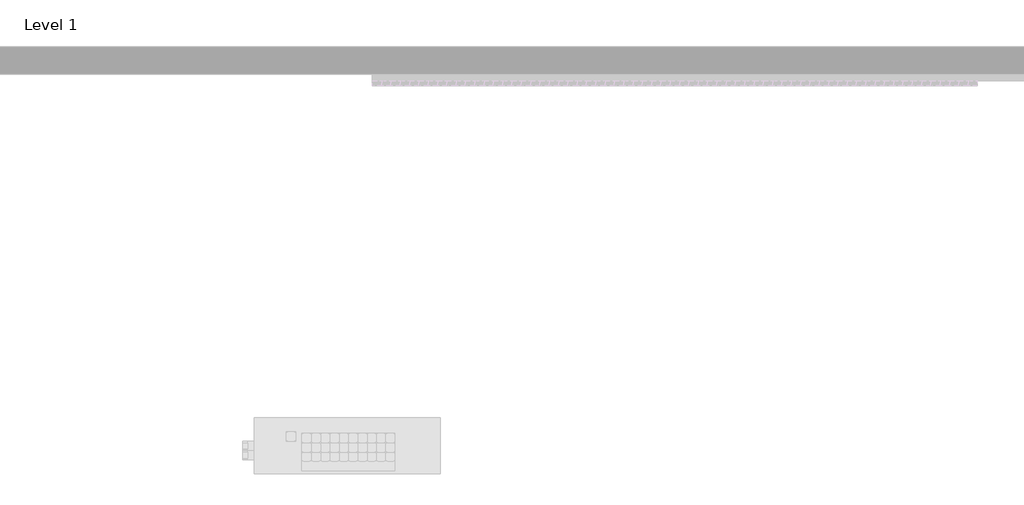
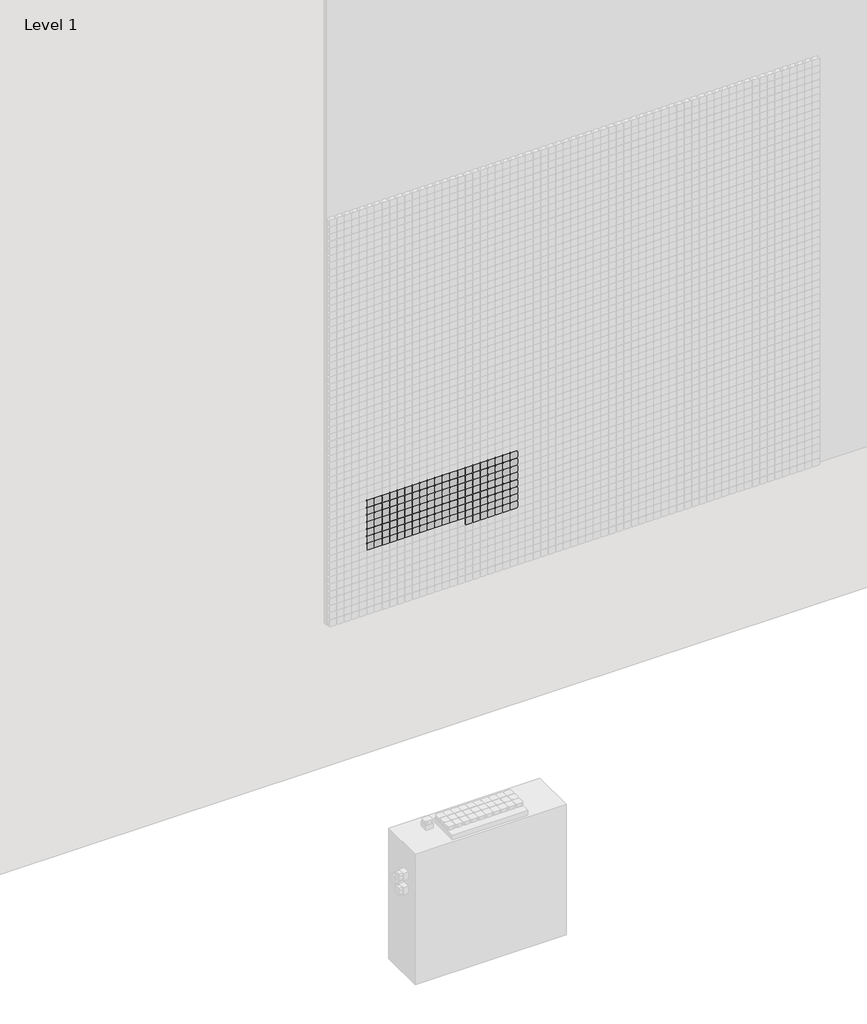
# One storey, part 19 of 71: 147 proxies.
"""IFC4 building model written with IfcOpenShell, lengths in millimetres."""

from ifc_helpers import new_model, si_unit, origin, place, context, project, spatial, transform, mapped, element, save
from components import generic_models_afde289c

model = new_model("IFC4")

# Units and contexts
model_context = context("Model", 3, world=origin())
ifc_project = project(units=[si_unit("LENGTHUNIT", "METRE", prefix="MILLI")], contexts=[model_context])

# Site, building, storey
site = spatial("IfcSite", under=ifc_project)
building = spatial("IfcBuilding", under=site)
storey = spatial("IfcBuildingStorey", under=building, Name="Level 1", Elevation=0.0)

# Proxies
placement = place(None, origin())
generic_models_shape = generic_models_afde289c(model_context)
element("IfcBuildingElementProxy", 1, Name="Pixel_M : Pixel_M", ObjectType="Pixel_M : Pixel_M", at=placement, inside=storey, context=model_context, shape_type="MappedRepresentation", body=[
    mapped(generic_models_shape, transform((5962.4280941, -75.0, 1766.3566215), x_axis=(1.0, 0.0, 0.0), y_axis=(0.0, 0.0, 1.0), z_axis=(0.0, -1.0, 0.0))),
])
element("IfcBuildingElementProxy", 2, Name="Pixel_M : Pixel_M", ObjectType="Pixel_M : Pixel_M", at=placement, inside=storey, context=model_context, shape_type="MappedRepresentation", body=[
    mapped(generic_models_shape, transform((5912.4280941, -75.0, 1766.3566215), x_axis=(1.0, 0.0, 0.0), y_axis=(0.0, 0.0, 1.0), z_axis=(0.0, -1.0, 0.0))),
])
element("IfcBuildingElementProxy", 3, Name="Pixel_M : Pixel_M", ObjectType="Pixel_M : Pixel_M", at=placement, inside=storey, context=model_context, shape_type="MappedRepresentation", body=[
    mapped(generic_models_shape, transform((5862.4280941, -75.0, 1766.3566215), x_axis=(1.0, 0.0, 0.0), y_axis=(0.0, 0.0, 1.0), z_axis=(0.0, -1.0, 0.0))),
])
element("IfcBuildingElementProxy", 4, Name="Pixel_M : Pixel_M", ObjectType="Pixel_M : Pixel_M", at=placement, inside=storey, context=model_context, shape_type="MappedRepresentation", body=[
    mapped(generic_models_shape, transform((5812.4280941, -75.0, 1766.3566215), x_axis=(1.0, 0.0, 0.0), y_axis=(0.0, 0.0, 1.0), z_axis=(0.0, -1.0, 0.0))),
])
element("IfcBuildingElementProxy", 5, Name="Pixel_M : Pixel_M", ObjectType="Pixel_M : Pixel_M", at=placement, inside=storey, context=model_context, shape_type="MappedRepresentation", body=[
    mapped(generic_models_shape, transform((5762.4280941, -75.0, 1766.3566215), x_axis=(1.0, 0.0, 0.0), y_axis=(0.0, 0.0, 1.0), z_axis=(0.0, -1.0, 0.0))),
])
element("IfcBuildingElementProxy", 6, Name="Pixel_M : Pixel_M", ObjectType="Pixel_M : Pixel_M", at=placement, inside=storey, context=model_context, shape_type="MappedRepresentation", body=[
    mapped(generic_models_shape, transform((5712.4280941, -75.0, 1766.3566215), x_axis=(1.0, 0.0, 0.0), y_axis=(0.0, 0.0, 1.0), z_axis=(0.0, -1.0, 0.0))),
])
element("IfcBuildingElementProxy", 7, Name="Pixel_M : Pixel_M", ObjectType="Pixel_M : Pixel_M", at=placement, inside=storey, context=model_context, shape_type="MappedRepresentation", body=[
    mapped(generic_models_shape, transform((5662.4280941, -75.0, 1766.3566215), x_axis=(1.0, 0.0, 0.0), y_axis=(0.0, 0.0, 1.0), z_axis=(0.0, -1.0, 0.0))),
])
element("IfcBuildingElementProxy", 8, Name="Pixel_M : Pixel_M", ObjectType="Pixel_M : Pixel_M", at=placement, inside=storey, context=model_context, shape_type="MappedRepresentation", body=[
    mapped(generic_models_shape, transform((5612.4280941, -75.0, 1766.3566215), x_axis=(1.0, 0.0, 0.0), y_axis=(0.0, 0.0, 1.0), z_axis=(0.0, -1.0, 0.0))),
])
element("IfcBuildingElementProxy", 9, Name="Pixel_M : Pixel_M", ObjectType="Pixel_M : Pixel_M", at=placement, inside=storey, context=model_context, shape_type="MappedRepresentation", body=[
    mapped(generic_models_shape, transform((5562.4280941, -75.0, 1766.3566215), x_axis=(1.0, 0.0, 0.0), y_axis=(0.0, 0.0, 1.0), z_axis=(0.0, -1.0, 0.0))),
])
element("IfcBuildingElementProxy", 10, Name="Pixel_M : Pixel_M", ObjectType="Pixel_M : Pixel_M", at=placement, inside=storey, context=model_context, shape_type="MappedRepresentation", body=[
    mapped(generic_models_shape, transform((5512.4280941, -75.0, 1766.3566215), x_axis=(1.0, 0.0, 0.0), y_axis=(0.0, 0.0, 1.0), z_axis=(0.0, -1.0, 0.0))),
])
element("IfcBuildingElementProxy", 11, Name="Pixel_M : Pixel_M", ObjectType="Pixel_M : Pixel_M", at=placement, inside=storey, context=model_context, shape_type="MappedRepresentation", body=[
    mapped(generic_models_shape, transform((5462.4280941, -75.0, 1766.3566215), x_axis=(1.0, 0.0, 0.0), y_axis=(0.0, 0.0, 1.0), z_axis=(0.0, -1.0, 0.0))),
])
element("IfcBuildingElementProxy", 12, Name="Pixel_M : Pixel_M", ObjectType="Pixel_M : Pixel_M", at=placement, inside=storey, context=model_context, shape_type="MappedRepresentation", body=[
    mapped(generic_models_shape, transform((5412.4280941, -75.0, 1766.3566215), x_axis=(1.0, 0.0, 0.0), y_axis=(0.0, 0.0, 1.0), z_axis=(0.0, -1.0, 0.0))),
])
element("IfcBuildingElementProxy", 13, Name="Pixel_M : Pixel_M", ObjectType="Pixel_M : Pixel_M", at=placement, inside=storey, context=model_context, shape_type="MappedRepresentation", body=[
    mapped(generic_models_shape, transform((5362.4280941, -75.0, 1766.3566215), x_axis=(1.0, 0.0, 0.0), y_axis=(0.0, 0.0, 1.0), z_axis=(0.0, -1.0, 0.0))),
])
element("IfcBuildingElementProxy", 14, Name="Pixel_M : Pixel_M", ObjectType="Pixel_M : Pixel_M", at=placement, inside=storey, context=model_context, shape_type="MappedRepresentation", body=[
    mapped(generic_models_shape, transform((5312.4280941, -75.0, 1766.3566215), x_axis=(1.0, 0.0, 0.0), y_axis=(0.0, 0.0, 1.0), z_axis=(0.0, -1.0, 0.0))),
])
element("IfcBuildingElementProxy", 15, Name="Pixel_M : Pixel_M", ObjectType="Pixel_M : Pixel_M", at=placement, inside=storey, context=model_context, shape_type="MappedRepresentation", body=[
    mapped(generic_models_shape, transform((5262.4280941, -75.0, 1766.3566215), x_axis=(1.0, 0.0, 0.0), y_axis=(0.0, 0.0, 1.0), z_axis=(0.0, -1.0, 0.0))),
])
element("IfcBuildingElementProxy", 16, Name="Pixel_M : Pixel_M", ObjectType="Pixel_M : Pixel_M", at=placement, inside=storey, context=model_context, shape_type="MappedRepresentation", body=[
    mapped(generic_models_shape, transform((5212.4280941, -75.0, 1766.3566215), x_axis=(1.0, 0.0, 0.0), y_axis=(0.0, 0.0, 1.0), z_axis=(0.0, -1.0, 0.0))),
])
element("IfcBuildingElementProxy", 17, Name="Pixel_M : Pixel_M", ObjectType="Pixel_M : Pixel_M", at=placement, inside=storey, context=model_context, shape_type="MappedRepresentation", body=[
    mapped(generic_models_shape, transform((5162.4280941, -75.0, 1766.3566215), x_axis=(1.0, 0.0, 0.0), y_axis=(0.0, 0.0, 1.0), z_axis=(0.0, -1.0, 0.0))),
])
element("IfcBuildingElementProxy", 18, Name="Pixel_M : Pixel_M", ObjectType="Pixel_M : Pixel_M", at=placement, inside=storey, context=model_context, shape_type="MappedRepresentation", body=[
    mapped(generic_models_shape, transform((5112.4280941, -75.0, 1766.3566215), x_axis=(1.0, 0.0, 0.0), y_axis=(0.0, 0.0, 1.0), z_axis=(0.0, -1.0, 0.0))),
])
element("IfcBuildingElementProxy", 19, Name="Pixel_M : Pixel_M", ObjectType="Pixel_M : Pixel_M", at=placement, inside=storey, context=model_context, shape_type="MappedRepresentation", body=[
    mapped(generic_models_shape, transform((5062.4280941, -75.0, 1766.3566215), x_axis=(1.0, 0.0, 0.0), y_axis=(0.0, 0.0, 1.0), z_axis=(0.0, -1.0, 0.0))),
])
element("IfcBuildingElementProxy", 20, Name="Pixel_M : Pixel_M", ObjectType="Pixel_M : Pixel_M", at=placement, inside=storey, context=model_context, shape_type="MappedRepresentation", body=[
    mapped(generic_models_shape, transform((5012.4280941, -75.0, 1766.3566215), x_axis=(1.0, 0.0, 0.0), y_axis=(0.0, 0.0, 1.0), z_axis=(0.0, -1.0, 0.0))),
])
element("IfcBuildingElementProxy", 21, Name="Pixel_M : Pixel_M", ObjectType="Pixel_M : Pixel_M", at=placement, inside=storey, context=model_context, shape_type="MappedRepresentation", body=[
    mapped(generic_models_shape, transform((5962.4280941, -75.0, 1716.3566215), x_axis=(1.0, 0.0, 0.0), y_axis=(0.0, 0.0, 1.0), z_axis=(0.0, -1.0, 0.0))),
])
element("IfcBuildingElementProxy", 22, Name="Pixel_M : Pixel_M", ObjectType="Pixel_M : Pixel_M", at=placement, inside=storey, context=model_context, shape_type="MappedRepresentation", body=[
    mapped(generic_models_shape, transform((5912.4280941, -75.0, 1716.3566215), x_axis=(1.0, 0.0, 0.0), y_axis=(0.0, 0.0, 1.0), z_axis=(0.0, -1.0, 0.0))),
])
element("IfcBuildingElementProxy", 23, Name="Pixel_M : Pixel_M", ObjectType="Pixel_M : Pixel_M", at=placement, inside=storey, context=model_context, shape_type="MappedRepresentation", body=[
    mapped(generic_models_shape, transform((5862.4280941, -75.0, 1716.3566215), x_axis=(1.0, 0.0, 0.0), y_axis=(0.0, 0.0, 1.0), z_axis=(0.0, -1.0, 0.0))),
])
element("IfcBuildingElementProxy", 24, Name="Pixel_M : Pixel_M", ObjectType="Pixel_M : Pixel_M", at=placement, inside=storey, context=model_context, shape_type="MappedRepresentation", body=[
    mapped(generic_models_shape, transform((5812.4280941, -75.0, 1716.3566215), x_axis=(1.0, 0.0, 0.0), y_axis=(0.0, 0.0, 1.0), z_axis=(0.0, -1.0, 0.0))),
])
element("IfcBuildingElementProxy", 25, Name="Pixel_M : Pixel_M", ObjectType="Pixel_M : Pixel_M", at=placement, inside=storey, context=model_context, shape_type="MappedRepresentation", body=[
    mapped(generic_models_shape, transform((5762.4280941, -75.0, 1716.3566215), x_axis=(1.0, 0.0, 0.0), y_axis=(0.0, 0.0, 1.0), z_axis=(0.0, -1.0, 0.0))),
])
element("IfcBuildingElementProxy", 26, Name="Pixel_M : Pixel_M", ObjectType="Pixel_M : Pixel_M", at=placement, inside=storey, context=model_context, shape_type="MappedRepresentation", body=[
    mapped(generic_models_shape, transform((5712.4280941, -75.0, 1716.3566215), x_axis=(1.0, 0.0, 0.0), y_axis=(0.0, 0.0, 1.0), z_axis=(0.0, -1.0, 0.0))),
])
element("IfcBuildingElementProxy", 27, Name="Pixel_M : Pixel_M", ObjectType="Pixel_M : Pixel_M", at=placement, inside=storey, context=model_context, shape_type="MappedRepresentation", body=[
    mapped(generic_models_shape, transform((5662.4280941, -75.0, 1716.3566215), x_axis=(1.0, 0.0, 0.0), y_axis=(0.0, 0.0, 1.0), z_axis=(0.0, -1.0, 0.0))),
])
element("IfcBuildingElementProxy", 28, Name="Pixel_M : Pixel_M", ObjectType="Pixel_M : Pixel_M", at=placement, inside=storey, context=model_context, shape_type="MappedRepresentation", body=[
    mapped(generic_models_shape, transform((5612.4280941, -75.0, 1716.3566215), x_axis=(1.0, 0.0, 0.0), y_axis=(0.0, 0.0, 1.0), z_axis=(0.0, -1.0, 0.0))),
])
element("IfcBuildingElementProxy", 29, Name="Pixel_M : Pixel_M", ObjectType="Pixel_M : Pixel_M", at=placement, inside=storey, context=model_context, shape_type="MappedRepresentation", body=[
    mapped(generic_models_shape, transform((5562.4280941, -75.0, 1716.3566215), x_axis=(1.0, 0.0, 0.0), y_axis=(0.0, 0.0, 1.0), z_axis=(0.0, -1.0, 0.0))),
])
element("IfcBuildingElementProxy", 30, Name="Pixel_M : Pixel_M", ObjectType="Pixel_M : Pixel_M", at=placement, inside=storey, context=model_context, shape_type="MappedRepresentation", body=[
    mapped(generic_models_shape, transform((5512.4280941, -75.0, 1716.3566215), x_axis=(1.0, 0.0, 0.0), y_axis=(0.0, 0.0, 1.0), z_axis=(0.0, -1.0, 0.0))),
])
element("IfcBuildingElementProxy", 31, Name="Pixel_M : Pixel_M", ObjectType="Pixel_M : Pixel_M", at=placement, inside=storey, context=model_context, shape_type="MappedRepresentation", body=[
    mapped(generic_models_shape, transform((5462.4280941, -75.0, 1716.3566215), x_axis=(1.0, 0.0, 0.0), y_axis=(0.0, 0.0, 1.0), z_axis=(0.0, -1.0, 0.0))),
])
element("IfcBuildingElementProxy", 32, Name="Pixel_M : Pixel_M", ObjectType="Pixel_M : Pixel_M", at=placement, inside=storey, context=model_context, shape_type="MappedRepresentation", body=[
    mapped(generic_models_shape, transform((5412.4280941, -75.0, 1716.3566215), x_axis=(1.0, 0.0, 0.0), y_axis=(0.0, 0.0, 1.0), z_axis=(0.0, -1.0, 0.0))),
])
element("IfcBuildingElementProxy", 33, Name="Pixel_M : Pixel_M", ObjectType="Pixel_M : Pixel_M", at=placement, inside=storey, context=model_context, shape_type="MappedRepresentation", body=[
    mapped(generic_models_shape, transform((5362.4280941, -75.0, 1716.3566215), x_axis=(1.0, 0.0, 0.0), y_axis=(0.0, 0.0, 1.0), z_axis=(0.0, -1.0, 0.0))),
])
element("IfcBuildingElementProxy", 34, Name="Pixel_M : Pixel_M", ObjectType="Pixel_M : Pixel_M", at=placement, inside=storey, context=model_context, shape_type="MappedRepresentation", body=[
    mapped(generic_models_shape, transform((5312.4280941, -75.0, 1716.3566215), x_axis=(1.0, 0.0, 0.0), y_axis=(0.0, 0.0, 1.0), z_axis=(0.0, -1.0, 0.0))),
])
element("IfcBuildingElementProxy", 35, Name="Pixel_M : Pixel_M", ObjectType="Pixel_M : Pixel_M", at=placement, inside=storey, context=model_context, shape_type="MappedRepresentation", body=[
    mapped(generic_models_shape, transform((5262.4280941, -75.0, 1716.3566215), x_axis=(1.0, 0.0, 0.0), y_axis=(0.0, 0.0, 1.0), z_axis=(0.0, -1.0, 0.0))),
])
element("IfcBuildingElementProxy", 36, Name="Pixel_M : Pixel_M", ObjectType="Pixel_M : Pixel_M", at=placement, inside=storey, context=model_context, shape_type="MappedRepresentation", body=[
    mapped(generic_models_shape, transform((5212.4280941, -75.0, 1716.3566215), x_axis=(1.0, 0.0, 0.0), y_axis=(0.0, 0.0, 1.0), z_axis=(0.0, -1.0, 0.0))),
])
element("IfcBuildingElementProxy", 37, Name="Pixel_M : Pixel_M", ObjectType="Pixel_M : Pixel_M", at=placement, inside=storey, context=model_context, shape_type="MappedRepresentation", body=[
    mapped(generic_models_shape, transform((5162.4280941, -75.0, 1716.3566215), x_axis=(1.0, 0.0, 0.0), y_axis=(0.0, 0.0, 1.0), z_axis=(0.0, -1.0, 0.0))),
])
element("IfcBuildingElementProxy", 38, Name="Pixel_M : Pixel_M", ObjectType="Pixel_M : Pixel_M", at=placement, inside=storey, context=model_context, shape_type="MappedRepresentation", body=[
    mapped(generic_models_shape, transform((5112.4280941, -75.0, 1716.3566215), x_axis=(1.0, 0.0, 0.0), y_axis=(0.0, 0.0, 1.0), z_axis=(0.0, -1.0, 0.0))),
])
element("IfcBuildingElementProxy", 39, Name="Pixel_M : Pixel_M", ObjectType="Pixel_M : Pixel_M", at=placement, inside=storey, context=model_context, shape_type="MappedRepresentation", body=[
    mapped(generic_models_shape, transform((5062.4280941, -75.0, 1716.3566215), x_axis=(1.0, 0.0, 0.0), y_axis=(0.0, 0.0, 1.0), z_axis=(0.0, -1.0, 0.0))),
])
element("IfcBuildingElementProxy", 40, Name="Pixel_M : Pixel_M", ObjectType="Pixel_M : Pixel_M", at=placement, inside=storey, context=model_context, shape_type="MappedRepresentation", body=[
    mapped(generic_models_shape, transform((5012.4280941, -75.0, 1716.3566215), x_axis=(1.0, 0.0, 0.0), y_axis=(0.0, 0.0, 1.0), z_axis=(0.0, -1.0, 0.0))),
])
element("IfcBuildingElementProxy", 41, Name="Pixel_M : Pixel_M", ObjectType="Pixel_M : Pixel_M", at=placement, inside=storey, context=model_context, shape_type="MappedRepresentation", body=[
    mapped(generic_models_shape, transform((5962.4280941, -75.0, 1666.3566215), x_axis=(1.0, 0.0, 0.0), y_axis=(0.0, 0.0, 1.0), z_axis=(0.0, -1.0, 0.0))),
])
element("IfcBuildingElementProxy", 42, Name="Pixel_M : Pixel_M", ObjectType="Pixel_M : Pixel_M", at=placement, inside=storey, context=model_context, shape_type="MappedRepresentation", body=[
    mapped(generic_models_shape, transform((5912.4280941, -75.0, 1666.3566215), x_axis=(1.0, 0.0, 0.0), y_axis=(0.0, 0.0, 1.0), z_axis=(0.0, -1.0, 0.0))),
])
element("IfcBuildingElementProxy", 43, Name="Pixel_M : Pixel_M", ObjectType="Pixel_M : Pixel_M", at=placement, inside=storey, context=model_context, shape_type="MappedRepresentation", body=[
    mapped(generic_models_shape, transform((5862.4280941, -75.0, 1666.3566215), x_axis=(1.0, 0.0, 0.0), y_axis=(0.0, 0.0, 1.0), z_axis=(0.0, -1.0, 0.0))),
])
element("IfcBuildingElementProxy", 44, Name="Pixel_M : Pixel_M", ObjectType="Pixel_M : Pixel_M", at=placement, inside=storey, context=model_context, shape_type="MappedRepresentation", body=[
    mapped(generic_models_shape, transform((5812.4280941, -75.0, 1666.3566215), x_axis=(1.0, 0.0, 0.0), y_axis=(0.0, 0.0, 1.0), z_axis=(0.0, -1.0, 0.0))),
])
element("IfcBuildingElementProxy", 45, Name="Pixel_M : Pixel_M", ObjectType="Pixel_M : Pixel_M", at=placement, inside=storey, context=model_context, shape_type="MappedRepresentation", body=[
    mapped(generic_models_shape, transform((5762.4280941, -75.0, 1666.3566215), x_axis=(1.0, 0.0, 0.0), y_axis=(0.0, 0.0, 1.0), z_axis=(0.0, -1.0, 0.0))),
])
element("IfcBuildingElementProxy", 46, Name="Pixel_M : Pixel_M", ObjectType="Pixel_M : Pixel_M", at=placement, inside=storey, context=model_context, shape_type="MappedRepresentation", body=[
    mapped(generic_models_shape, transform((5712.4280941, -75.0, 1666.3566215), x_axis=(1.0, 0.0, 0.0), y_axis=(0.0, 0.0, 1.0), z_axis=(0.0, -1.0, 0.0))),
])
element("IfcBuildingElementProxy", 47, Name="Pixel_M : Pixel_M", ObjectType="Pixel_M : Pixel_M", at=placement, inside=storey, context=model_context, shape_type="MappedRepresentation", body=[
    mapped(generic_models_shape, transform((5662.4280941, -75.0, 1666.3566215), x_axis=(1.0, 0.0, 0.0), y_axis=(0.0, 0.0, 1.0), z_axis=(0.0, -1.0, 0.0))),
])
element("IfcBuildingElementProxy", 48, Name="Pixel_M : Pixel_M", ObjectType="Pixel_M : Pixel_M", at=placement, inside=storey, context=model_context, shape_type="MappedRepresentation", body=[
    mapped(generic_models_shape, transform((5612.4280941, -75.0, 1666.3566215), x_axis=(1.0, 0.0, 0.0), y_axis=(0.0, 0.0, 1.0), z_axis=(0.0, -1.0, 0.0))),
])
element("IfcBuildingElementProxy", 49, Name="Pixel_M : Pixel_M", ObjectType="Pixel_M : Pixel_M", at=placement, inside=storey, context=model_context, shape_type="MappedRepresentation", body=[
    mapped(generic_models_shape, transform((5562.4280941, -75.0, 1666.3566215), x_axis=(1.0, 0.0, 0.0), y_axis=(0.0, 0.0, 1.0), z_axis=(0.0, -1.0, 0.0))),
])
element("IfcBuildingElementProxy", 50, Name="Pixel_M : Pixel_M", ObjectType="Pixel_M : Pixel_M", at=placement, inside=storey, context=model_context, shape_type="MappedRepresentation", body=[
    mapped(generic_models_shape, transform((5512.4280941, -75.0, 1666.3566215), x_axis=(1.0, 0.0, 0.0), y_axis=(0.0, 0.0, 1.0), z_axis=(0.0, -1.0, 0.0))),
])
element("IfcBuildingElementProxy", 51, Name="Pixel_M : Pixel_M", ObjectType="Pixel_M : Pixel_M", at=placement, inside=storey, context=model_context, shape_type="MappedRepresentation", body=[
    mapped(generic_models_shape, transform((5462.4280941, -75.0, 1666.3566215), x_axis=(1.0, 0.0, 0.0), y_axis=(0.0, 0.0, 1.0), z_axis=(0.0, -1.0, 0.0))),
])
element("IfcBuildingElementProxy", 52, Name="Pixel_M : Pixel_M", ObjectType="Pixel_M : Pixel_M", at=placement, inside=storey, context=model_context, shape_type="MappedRepresentation", body=[
    mapped(generic_models_shape, transform((5412.4280941, -75.0, 1666.3566215), x_axis=(1.0, 0.0, 0.0), y_axis=(0.0, 0.0, 1.0), z_axis=(0.0, -1.0, 0.0))),
])
element("IfcBuildingElementProxy", 53, Name="Pixel_M : Pixel_M", ObjectType="Pixel_M : Pixel_M", at=placement, inside=storey, context=model_context, shape_type="MappedRepresentation", body=[
    mapped(generic_models_shape, transform((5362.4280941, -75.0, 1666.3566215), x_axis=(1.0, 0.0, 0.0), y_axis=(0.0, 0.0, 1.0), z_axis=(0.0, -1.0, 0.0))),
])
element("IfcBuildingElementProxy", 54, Name="Pixel_M : Pixel_M", ObjectType="Pixel_M : Pixel_M", at=placement, inside=storey, context=model_context, shape_type="MappedRepresentation", body=[
    mapped(generic_models_shape, transform((5312.4280941, -75.0, 1666.3566215), x_axis=(1.0, 0.0, 0.0), y_axis=(0.0, 0.0, 1.0), z_axis=(0.0, -1.0, 0.0))),
])
element("IfcBuildingElementProxy", 55, Name="Pixel_M : Pixel_M", ObjectType="Pixel_M : Pixel_M", at=placement, inside=storey, context=model_context, shape_type="MappedRepresentation", body=[
    mapped(generic_models_shape, transform((5262.4280941, -75.0, 1666.3566215), x_axis=(1.0, 0.0, 0.0), y_axis=(0.0, 0.0, 1.0), z_axis=(0.0, -1.0, 0.0))),
])
element("IfcBuildingElementProxy", 56, Name="Pixel_M : Pixel_M", ObjectType="Pixel_M : Pixel_M", at=placement, inside=storey, context=model_context, shape_type="MappedRepresentation", body=[
    mapped(generic_models_shape, transform((5212.4280941, -75.0, 1666.3566215), x_axis=(1.0, 0.0, 0.0), y_axis=(0.0, 0.0, 1.0), z_axis=(0.0, -1.0, 0.0))),
])
element("IfcBuildingElementProxy", 57, Name="Pixel_M : Pixel_M", ObjectType="Pixel_M : Pixel_M", at=placement, inside=storey, context=model_context, shape_type="MappedRepresentation", body=[
    mapped(generic_models_shape, transform((5162.4280941, -75.0, 1666.3566215), x_axis=(1.0, 0.0, 0.0), y_axis=(0.0, 0.0, 1.0), z_axis=(0.0, -1.0, 0.0))),
])
element("IfcBuildingElementProxy", 58, Name="Pixel_M : Pixel_M", ObjectType="Pixel_M : Pixel_M", at=placement, inside=storey, context=model_context, shape_type="MappedRepresentation", body=[
    mapped(generic_models_shape, transform((5112.4280941, -75.0, 1666.3566215), x_axis=(1.0, 0.0, 0.0), y_axis=(0.0, 0.0, 1.0), z_axis=(0.0, -1.0, 0.0))),
])
element("IfcBuildingElementProxy", 59, Name="Pixel_M : Pixel_M", ObjectType="Pixel_M : Pixel_M", at=placement, inside=storey, context=model_context, shape_type="MappedRepresentation", body=[
    mapped(generic_models_shape, transform((5062.4280941, -75.0, 1666.3566215), x_axis=(1.0, 0.0, 0.0), y_axis=(0.0, 0.0, 1.0), z_axis=(0.0, -1.0, 0.0))),
])
element("IfcBuildingElementProxy", 60, Name="Pixel_M : Pixel_M", ObjectType="Pixel_M : Pixel_M", at=placement, inside=storey, context=model_context, shape_type="MappedRepresentation", body=[
    mapped(generic_models_shape, transform((5012.4280941, -75.0, 1666.3566215), x_axis=(1.0, 0.0, 0.0), y_axis=(0.0, 0.0, 1.0), z_axis=(0.0, -1.0, 0.0))),
])
element("IfcBuildingElementProxy", 61, Name="Pixel_M : Pixel_M", ObjectType="Pixel_M : Pixel_M", at=placement, inside=storey, context=model_context, shape_type="MappedRepresentation", body=[
    mapped(generic_models_shape, transform((5962.4280941, -75.0, 1616.3566215), x_axis=(1.0, 0.0, 0.0), y_axis=(0.0, 0.0, 1.0), z_axis=(0.0, -1.0, 0.0))),
])
element("IfcBuildingElementProxy", 62, Name="Pixel_M : Pixel_M", ObjectType="Pixel_M : Pixel_M", at=placement, inside=storey, context=model_context, shape_type="MappedRepresentation", body=[
    mapped(generic_models_shape, transform((5912.4280941, -75.0, 1616.3566215), x_axis=(1.0, 0.0, 0.0), y_axis=(0.0, 0.0, 1.0), z_axis=(0.0, -1.0, 0.0))),
])
element("IfcBuildingElementProxy", 63, Name="Pixel_M : Pixel_M", ObjectType="Pixel_M : Pixel_M", at=placement, inside=storey, context=model_context, shape_type="MappedRepresentation", body=[
    mapped(generic_models_shape, transform((5862.4280941, -75.0, 1616.3566215), x_axis=(1.0, 0.0, 0.0), y_axis=(0.0, 0.0, 1.0), z_axis=(0.0, -1.0, 0.0))),
])
element("IfcBuildingElementProxy", 64, Name="Pixel_M : Pixel_M", ObjectType="Pixel_M : Pixel_M", at=placement, inside=storey, context=model_context, shape_type="MappedRepresentation", body=[
    mapped(generic_models_shape, transform((5812.4280941, -75.0, 1616.3566215), x_axis=(1.0, 0.0, 0.0), y_axis=(0.0, 0.0, 1.0), z_axis=(0.0, -1.0, 0.0))),
])
element("IfcBuildingElementProxy", 65, Name="Pixel_M : Pixel_M", ObjectType="Pixel_M : Pixel_M", at=placement, inside=storey, context=model_context, shape_type="MappedRepresentation", body=[
    mapped(generic_models_shape, transform((5762.4280941, -75.0, 1616.3566215), x_axis=(1.0, 0.0, 0.0), y_axis=(0.0, 0.0, 1.0), z_axis=(0.0, -1.0, 0.0))),
])
element("IfcBuildingElementProxy", 66, Name="Pixel_M : Pixel_M", ObjectType="Pixel_M : Pixel_M", at=placement, inside=storey, context=model_context, shape_type="MappedRepresentation", body=[
    mapped(generic_models_shape, transform((5712.4280941, -75.0, 1616.3566215), x_axis=(1.0, 0.0, 0.0), y_axis=(0.0, 0.0, 1.0), z_axis=(0.0, -1.0, 0.0))),
])
element("IfcBuildingElementProxy", 67, Name="Pixel_M : Pixel_M", ObjectType="Pixel_M : Pixel_M", at=placement, inside=storey, context=model_context, shape_type="MappedRepresentation", body=[
    mapped(generic_models_shape, transform((5662.4280941, -75.0, 1616.3566215), x_axis=(1.0, 0.0, 0.0), y_axis=(0.0, 0.0, 1.0), z_axis=(0.0, -1.0, 0.0))),
])
element("IfcBuildingElementProxy", 68, Name="Pixel_M : Pixel_M", ObjectType="Pixel_M : Pixel_M", at=placement, inside=storey, context=model_context, shape_type="MappedRepresentation", body=[
    mapped(generic_models_shape, transform((5612.4280941, -75.0, 1616.3566215), x_axis=(1.0, 0.0, 0.0), y_axis=(0.0, 0.0, 1.0), z_axis=(0.0, -1.0, 0.0))),
])
element("IfcBuildingElementProxy", 69, Name="Pixel_M : Pixel_M", ObjectType="Pixel_M : Pixel_M", at=placement, inside=storey, context=model_context, shape_type="MappedRepresentation", body=[
    mapped(generic_models_shape, transform((5562.4280941, -75.0, 1616.3566215), x_axis=(1.0, 0.0, 0.0), y_axis=(0.0, 0.0, 1.0), z_axis=(0.0, -1.0, 0.0))),
])
element("IfcBuildingElementProxy", 70, Name="Pixel_M : Pixel_M", ObjectType="Pixel_M : Pixel_M", at=placement, inside=storey, context=model_context, shape_type="MappedRepresentation", body=[
    mapped(generic_models_shape, transform((5512.4280941, -75.0, 1616.3566215), x_axis=(1.0, 0.0, 0.0), y_axis=(0.0, 0.0, 1.0), z_axis=(0.0, -1.0, 0.0))),
])
element("IfcBuildingElementProxy", 71, Name="Pixel_M : Pixel_M", ObjectType="Pixel_M : Pixel_M", at=placement, inside=storey, context=model_context, shape_type="MappedRepresentation", body=[
    mapped(generic_models_shape, transform((5462.4280941, -75.0, 1616.3566215), x_axis=(1.0, 0.0, 0.0), y_axis=(0.0, 0.0, 1.0), z_axis=(0.0, -1.0, 0.0))),
])
element("IfcBuildingElementProxy", 72, Name="Pixel_M : Pixel_M", ObjectType="Pixel_M : Pixel_M", at=placement, inside=storey, context=model_context, shape_type="MappedRepresentation", body=[
    mapped(generic_models_shape, transform((5412.4280941, -75.0, 1616.3566215), x_axis=(1.0, 0.0, 0.0), y_axis=(0.0, 0.0, 1.0), z_axis=(0.0, -1.0, 0.0))),
])
element("IfcBuildingElementProxy", 73, Name="Pixel_M : Pixel_M", ObjectType="Pixel_M : Pixel_M", at=placement, inside=storey, context=model_context, shape_type="MappedRepresentation", body=[
    mapped(generic_models_shape, transform((5362.4280941, -75.0, 1616.3566215), x_axis=(1.0, 0.0, 0.0), y_axis=(0.0, 0.0, 1.0), z_axis=(0.0, -1.0, 0.0))),
])
element("IfcBuildingElementProxy", 74, Name="Pixel_M : Pixel_M", ObjectType="Pixel_M : Pixel_M", at=placement, inside=storey, context=model_context, shape_type="MappedRepresentation", body=[
    mapped(generic_models_shape, transform((5312.4280941, -75.0, 1616.3566215), x_axis=(1.0, 0.0, 0.0), y_axis=(0.0, 0.0, 1.0), z_axis=(0.0, -1.0, 0.0))),
])
element("IfcBuildingElementProxy", 75, Name="Pixel_M : Pixel_M", ObjectType="Pixel_M : Pixel_M", at=placement, inside=storey, context=model_context, shape_type="MappedRepresentation", body=[
    mapped(generic_models_shape, transform((5262.4280941, -75.0, 1616.3566215), x_axis=(1.0, 0.0, 0.0), y_axis=(0.0, 0.0, 1.0), z_axis=(0.0, -1.0, 0.0))),
])
element("IfcBuildingElementProxy", 76, Name="Pixel_M : Pixel_M", ObjectType="Pixel_M : Pixel_M", at=placement, inside=storey, context=model_context, shape_type="MappedRepresentation", body=[
    mapped(generic_models_shape, transform((5212.4280941, -75.0, 1616.3566215), x_axis=(1.0, 0.0, 0.0), y_axis=(0.0, 0.0, 1.0), z_axis=(0.0, -1.0, 0.0))),
])
element("IfcBuildingElementProxy", 77, Name="Pixel_M : Pixel_M", ObjectType="Pixel_M : Pixel_M", at=placement, inside=storey, context=model_context, shape_type="MappedRepresentation", body=[
    mapped(generic_models_shape, transform((5162.4280941, -75.0, 1616.3566215), x_axis=(1.0, 0.0, 0.0), y_axis=(0.0, 0.0, 1.0), z_axis=(0.0, -1.0, 0.0))),
])
element("IfcBuildingElementProxy", 78, Name="Pixel_M : Pixel_M", ObjectType="Pixel_M : Pixel_M", at=placement, inside=storey, context=model_context, shape_type="MappedRepresentation", body=[
    mapped(generic_models_shape, transform((5112.4280941, -75.0, 1616.3566215), x_axis=(1.0, 0.0, 0.0), y_axis=(0.0, 0.0, 1.0), z_axis=(0.0, -1.0, 0.0))),
])
element("IfcBuildingElementProxy", 79, Name="Pixel_M : Pixel_M", ObjectType="Pixel_M : Pixel_M", at=placement, inside=storey, context=model_context, shape_type="MappedRepresentation", body=[
    mapped(generic_models_shape, transform((5062.4280941, -75.0, 1616.3566215), x_axis=(1.0, 0.0, 0.0), y_axis=(0.0, 0.0, 1.0), z_axis=(0.0, -1.0, 0.0))),
])
element("IfcBuildingElementProxy", 80, Name="Pixel_M : Pixel_M", ObjectType="Pixel_M : Pixel_M", at=placement, inside=storey, context=model_context, shape_type="MappedRepresentation", body=[
    mapped(generic_models_shape, transform((5012.4280941, -75.0, 1616.3566215), x_axis=(1.0, 0.0, 0.0), y_axis=(0.0, 0.0, 1.0), z_axis=(0.0, -1.0, 0.0))),
])
element("IfcBuildingElementProxy", 81, Name="Pixel_M : Pixel_M", ObjectType="Pixel_M : Pixel_M", at=placement, inside=storey, context=model_context, shape_type="MappedRepresentation", body=[
    mapped(generic_models_shape, transform((5962.4280941, -75.0, 1566.3566215), x_axis=(1.0, 0.0, 0.0), y_axis=(0.0, 0.0, 1.0), z_axis=(0.0, -1.0, 0.0))),
])
element("IfcBuildingElementProxy", 82, Name="Pixel_M : Pixel_M", ObjectType="Pixel_M : Pixel_M", at=placement, inside=storey, context=model_context, shape_type="MappedRepresentation", body=[
    mapped(generic_models_shape, transform((5912.4280941, -75.0, 1566.3566215), x_axis=(1.0, 0.0, 0.0), y_axis=(0.0, 0.0, 1.0), z_axis=(0.0, -1.0, 0.0))),
])
element("IfcBuildingElementProxy", 83, Name="Pixel_M : Pixel_M", ObjectType="Pixel_M : Pixel_M", at=placement, inside=storey, context=model_context, shape_type="MappedRepresentation", body=[
    mapped(generic_models_shape, transform((5862.4280941, -75.0, 1566.3566215), x_axis=(1.0, 0.0, 0.0), y_axis=(0.0, 0.0, 1.0), z_axis=(0.0, -1.0, 0.0))),
])
element("IfcBuildingElementProxy", 84, Name="Pixel_M : Pixel_M", ObjectType="Pixel_M : Pixel_M", at=placement, inside=storey, context=model_context, shape_type="MappedRepresentation", body=[
    mapped(generic_models_shape, transform((5812.4280941, -75.0, 1566.3566215), x_axis=(1.0, 0.0, 0.0), y_axis=(0.0, 0.0, 1.0), z_axis=(0.0, -1.0, 0.0))),
])
element("IfcBuildingElementProxy", 85, Name="Pixel_M : Pixel_M", ObjectType="Pixel_M : Pixel_M", at=placement, inside=storey, context=model_context, shape_type="MappedRepresentation", body=[
    mapped(generic_models_shape, transform((5762.4280941, -75.0, 1566.3566215), x_axis=(1.0, 0.0, 0.0), y_axis=(0.0, 0.0, 1.0), z_axis=(0.0, -1.0, 0.0))),
])
element("IfcBuildingElementProxy", 86, Name="Pixel_M : Pixel_M", ObjectType="Pixel_M : Pixel_M", at=placement, inside=storey, context=model_context, shape_type="MappedRepresentation", body=[
    mapped(generic_models_shape, transform((5712.4280941, -75.0, 1566.3566215), x_axis=(1.0, 0.0, 0.0), y_axis=(0.0, 0.0, 1.0), z_axis=(0.0, -1.0, 0.0))),
])
element("IfcBuildingElementProxy", 87, Name="Pixel_M : Pixel_M", ObjectType="Pixel_M : Pixel_M", at=placement, inside=storey, context=model_context, shape_type="MappedRepresentation", body=[
    mapped(generic_models_shape, transform((5662.4280941, -75.0, 1566.3566215), x_axis=(1.0, 0.0, 0.0), y_axis=(0.0, 0.0, 1.0), z_axis=(0.0, -1.0, 0.0))),
])
element("IfcBuildingElementProxy", 88, Name="Pixel_M : Pixel_M", ObjectType="Pixel_M : Pixel_M", at=placement, inside=storey, context=model_context, shape_type="MappedRepresentation", body=[
    mapped(generic_models_shape, transform((5612.4280941, -75.0, 1566.3566215), x_axis=(1.0, 0.0, 0.0), y_axis=(0.0, 0.0, 1.0), z_axis=(0.0, -1.0, 0.0))),
])
element("IfcBuildingElementProxy", 89, Name="Pixel_M : Pixel_M", ObjectType="Pixel_M : Pixel_M", at=placement, inside=storey, context=model_context, shape_type="MappedRepresentation", body=[
    mapped(generic_models_shape, transform((5562.4280941, -75.0, 1566.3566215), x_axis=(1.0, 0.0, 0.0), y_axis=(0.0, 0.0, 1.0), z_axis=(0.0, -1.0, 0.0))),
])
element("IfcBuildingElementProxy", 90, Name="Pixel_M : Pixel_M", ObjectType="Pixel_M : Pixel_M", at=placement, inside=storey, context=model_context, shape_type="MappedRepresentation", body=[
    mapped(generic_models_shape, transform((5512.4280941, -75.0, 1566.3566215), x_axis=(1.0, 0.0, 0.0), y_axis=(0.0, 0.0, 1.0), z_axis=(0.0, -1.0, 0.0))),
])
element("IfcBuildingElementProxy", 91, Name="Pixel_M : Pixel_M", ObjectType="Pixel_M : Pixel_M", at=placement, inside=storey, context=model_context, shape_type="MappedRepresentation", body=[
    mapped(generic_models_shape, transform((5462.4280941, -75.0, 1566.3566215), x_axis=(1.0, 0.0, 0.0), y_axis=(0.0, 0.0, 1.0), z_axis=(0.0, -1.0, 0.0))),
])
element("IfcBuildingElementProxy", 92, Name="Pixel_M : Pixel_M", ObjectType="Pixel_M : Pixel_M", at=placement, inside=storey, context=model_context, shape_type="MappedRepresentation", body=[
    mapped(generic_models_shape, transform((5412.4280941, -75.0, 1566.3566215), x_axis=(1.0, 0.0, 0.0), y_axis=(0.0, 0.0, 1.0), z_axis=(0.0, -1.0, 0.0))),
])
element("IfcBuildingElementProxy", 93, Name="Pixel_M : Pixel_M", ObjectType="Pixel_M : Pixel_M", at=placement, inside=storey, context=model_context, shape_type="MappedRepresentation", body=[
    mapped(generic_models_shape, transform((5362.4280941, -75.0, 1566.3566215), x_axis=(1.0, 0.0, 0.0), y_axis=(0.0, 0.0, 1.0), z_axis=(0.0, -1.0, 0.0))),
])
element("IfcBuildingElementProxy", 94, Name="Pixel_M : Pixel_M", ObjectType="Pixel_M : Pixel_M", at=placement, inside=storey, context=model_context, shape_type="MappedRepresentation", body=[
    mapped(generic_models_shape, transform((5312.4280941, -75.0, 1566.3566215), x_axis=(1.0, 0.0, 0.0), y_axis=(0.0, 0.0, 1.0), z_axis=(0.0, -1.0, 0.0))),
])
element("IfcBuildingElementProxy", 95, Name="Pixel_M : Pixel_M", ObjectType="Pixel_M : Pixel_M", at=placement, inside=storey, context=model_context, shape_type="MappedRepresentation", body=[
    mapped(generic_models_shape, transform((5262.4280941, -75.0, 1566.3566215), x_axis=(1.0, 0.0, 0.0), y_axis=(0.0, 0.0, 1.0), z_axis=(0.0, -1.0, 0.0))),
])
element("IfcBuildingElementProxy", 96, Name="Pixel_M : Pixel_M", ObjectType="Pixel_M : Pixel_M", at=placement, inside=storey, context=model_context, shape_type="MappedRepresentation", body=[
    mapped(generic_models_shape, transform((5212.4280941, -75.0, 1566.3566215), x_axis=(1.0, 0.0, 0.0), y_axis=(0.0, 0.0, 1.0), z_axis=(0.0, -1.0, 0.0))),
])
element("IfcBuildingElementProxy", 97, Name="Pixel_M : Pixel_M", ObjectType="Pixel_M : Pixel_M", at=placement, inside=storey, context=model_context, shape_type="MappedRepresentation", body=[
    mapped(generic_models_shape, transform((5162.4280941, -75.0, 1566.3566215), x_axis=(1.0, 0.0, 0.0), y_axis=(0.0, 0.0, 1.0), z_axis=(0.0, -1.0, 0.0))),
])
element("IfcBuildingElementProxy", 98, Name="Pixel_M : Pixel_M", ObjectType="Pixel_M : Pixel_M", at=placement, inside=storey, context=model_context, shape_type="MappedRepresentation", body=[
    mapped(generic_models_shape, transform((5112.4280941, -75.0, 1566.3566215), x_axis=(1.0, 0.0, 0.0), y_axis=(0.0, 0.0, 1.0), z_axis=(0.0, -1.0, 0.0))),
])
element("IfcBuildingElementProxy", 99, Name="Pixel_M : Pixel_M", ObjectType="Pixel_M : Pixel_M", at=placement, inside=storey, context=model_context, shape_type="MappedRepresentation", body=[
    mapped(generic_models_shape, transform((5062.4280941, -75.0, 1566.3566215), x_axis=(1.0, 0.0, 0.0), y_axis=(0.0, 0.0, 1.0), z_axis=(0.0, -1.0, 0.0))),
])
element("IfcBuildingElementProxy", 100, Name="Pixel_M : Pixel_M", ObjectType="Pixel_M : Pixel_M", at=placement, inside=storey, context=model_context, shape_type="MappedRepresentation", body=[
    mapped(generic_models_shape, transform((5012.4280941, -75.0, 1566.3566215), x_axis=(1.0, 0.0, 0.0), y_axis=(0.0, 0.0, 1.0), z_axis=(0.0, -1.0, 0.0))),
])
element("IfcBuildingElementProxy", 101, Name="Pixel_M : Pixel_M", ObjectType="Pixel_M : Pixel_M", at=placement, inside=storey, context=model_context, shape_type="MappedRepresentation", body=[
    mapped(generic_models_shape, transform((5962.4280941, -75.0, 1516.3566215), x_axis=(1.0, 0.0, 0.0), y_axis=(0.0, 0.0, 1.0), z_axis=(0.0, -1.0, 0.0))),
])
element("IfcBuildingElementProxy", 102, Name="Pixel_M : Pixel_M", ObjectType="Pixel_M : Pixel_M", at=placement, inside=storey, context=model_context, shape_type="MappedRepresentation", body=[
    mapped(generic_models_shape, transform((5912.4280941, -75.0, 1516.3566215), x_axis=(1.0, 0.0, 0.0), y_axis=(0.0, 0.0, 1.0), z_axis=(0.0, -1.0, 0.0))),
])
element("IfcBuildingElementProxy", 103, Name="Pixel_M : Pixel_M", ObjectType="Pixel_M : Pixel_M", at=placement, inside=storey, context=model_context, shape_type="MappedRepresentation", body=[
    mapped(generic_models_shape, transform((5862.4280941, -75.0, 1516.3566215), x_axis=(1.0, 0.0, 0.0), y_axis=(0.0, 0.0, 1.0), z_axis=(0.0, -1.0, 0.0))),
])
element("IfcBuildingElementProxy", 104, Name="Pixel_M : Pixel_M", ObjectType="Pixel_M : Pixel_M", at=placement, inside=storey, context=model_context, shape_type="MappedRepresentation", body=[
    mapped(generic_models_shape, transform((5812.4280941, -75.0, 1516.3566215), x_axis=(1.0, 0.0, 0.0), y_axis=(0.0, 0.0, 1.0), z_axis=(0.0, -1.0, 0.0))),
])
element("IfcBuildingElementProxy", 105, Name="Pixel_M : Pixel_M", ObjectType="Pixel_M : Pixel_M", at=placement, inside=storey, context=model_context, shape_type="MappedRepresentation", body=[
    mapped(generic_models_shape, transform((5762.4280941, -75.0, 1516.3566215), x_axis=(1.0, 0.0, 0.0), y_axis=(0.0, 0.0, 1.0), z_axis=(0.0, -1.0, 0.0))),
])
element("IfcBuildingElementProxy", 106, Name="Pixel_M : Pixel_M", ObjectType="Pixel_M : Pixel_M", at=placement, inside=storey, context=model_context, shape_type="MappedRepresentation", body=[
    mapped(generic_models_shape, transform((5712.4280941, -75.0, 1516.3566215), x_axis=(1.0, 0.0, 0.0), y_axis=(0.0, 0.0, 1.0), z_axis=(0.0, -1.0, 0.0))),
])
element("IfcBuildingElementProxy", 107, Name="Pixel_M : Pixel_M", ObjectType="Pixel_M : Pixel_M", at=placement, inside=storey, context=model_context, shape_type="MappedRepresentation", body=[
    mapped(generic_models_shape, transform((5662.4280941, -75.0, 1516.3566215), x_axis=(1.0, 0.0, 0.0), y_axis=(0.0, 0.0, 1.0), z_axis=(0.0, -1.0, 0.0))),
])
element("IfcBuildingElementProxy", 108, Name="Pixel_M : Pixel_M", ObjectType="Pixel_M : Pixel_M", at=placement, inside=storey, context=model_context, shape_type="MappedRepresentation", body=[
    mapped(generic_models_shape, transform((5612.4280941, -75.0, 1516.3566215), x_axis=(1.0, 0.0, 0.0), y_axis=(0.0, 0.0, 1.0), z_axis=(0.0, -1.0, 0.0))),
])
element("IfcBuildingElementProxy", 109, Name="Pixel_M : Pixel_M", ObjectType="Pixel_M : Pixel_M", at=placement, inside=storey, context=model_context, shape_type="MappedRepresentation", body=[
    mapped(generic_models_shape, transform((5562.4280941, -75.0, 1516.3566215), x_axis=(1.0, 0.0, 0.0), y_axis=(0.0, 0.0, 1.0), z_axis=(0.0, -1.0, 0.0))),
])
element("IfcBuildingElementProxy", 110, Name="Pixel_M : Pixel_M", ObjectType="Pixel_M : Pixel_M", at=placement, inside=storey, context=model_context, shape_type="MappedRepresentation", body=[
    mapped(generic_models_shape, transform((5512.4280941, -75.0, 1516.3566215), x_axis=(1.0, 0.0, 0.0), y_axis=(0.0, 0.0, 1.0), z_axis=(0.0, -1.0, 0.0))),
])
element("IfcBuildingElementProxy", 111, Name="Pixel_M : Pixel_M", ObjectType="Pixel_M : Pixel_M", at=placement, inside=storey, context=model_context, shape_type="MappedRepresentation", body=[
    mapped(generic_models_shape, transform((5462.4280941, -75.0, 1516.3566215), x_axis=(1.0, 0.0, 0.0), y_axis=(0.0, 0.0, 1.0), z_axis=(0.0, -1.0, 0.0))),
])
element("IfcBuildingElementProxy", 112, Name="Pixel_M : Pixel_M", ObjectType="Pixel_M : Pixel_M", at=placement, inside=storey, context=model_context, shape_type="MappedRepresentation", body=[
    mapped(generic_models_shape, transform((5412.4280941, -75.0, 1516.3566215), x_axis=(1.0, 0.0, 0.0), y_axis=(0.0, 0.0, 1.0), z_axis=(0.0, -1.0, 0.0))),
])
element("IfcBuildingElementProxy", 113, Name="Pixel_M : Pixel_M", ObjectType="Pixel_M : Pixel_M", at=placement, inside=storey, context=model_context, shape_type="MappedRepresentation", body=[
    mapped(generic_models_shape, transform((5362.4280941, -75.0, 1516.3566215), x_axis=(1.0, 0.0, 0.0), y_axis=(0.0, 0.0, 1.0), z_axis=(0.0, -1.0, 0.0))),
])
element("IfcBuildingElementProxy", 114, Name="Pixel_M : Pixel_M", ObjectType="Pixel_M : Pixel_M", at=placement, inside=storey, context=model_context, shape_type="MappedRepresentation", body=[
    mapped(generic_models_shape, transform((5312.4280941, -75.0, 1516.3566215), x_axis=(1.0, 0.0, 0.0), y_axis=(0.0, 0.0, 1.0), z_axis=(0.0, -1.0, 0.0))),
])
element("IfcBuildingElementProxy", 115, Name="Pixel_M : Pixel_M", ObjectType="Pixel_M : Pixel_M", at=placement, inside=storey, context=model_context, shape_type="MappedRepresentation", body=[
    mapped(generic_models_shape, transform((5262.4280941, -75.0, 1516.3566215), x_axis=(1.0, 0.0, 0.0), y_axis=(0.0, 0.0, 1.0), z_axis=(0.0, -1.0, 0.0))),
])
element("IfcBuildingElementProxy", 116, Name="Pixel_M : Pixel_M", ObjectType="Pixel_M : Pixel_M", at=placement, inside=storey, context=model_context, shape_type="MappedRepresentation", body=[
    mapped(generic_models_shape, transform((5212.4280941, -75.0, 1516.3566215), x_axis=(1.0, 0.0, 0.0), y_axis=(0.0, 0.0, 1.0), z_axis=(0.0, -1.0, 0.0))),
])
element("IfcBuildingElementProxy", 117, Name="Pixel_M : Pixel_M", ObjectType="Pixel_M : Pixel_M", at=placement, inside=storey, context=model_context, shape_type="MappedRepresentation", body=[
    mapped(generic_models_shape, transform((5162.4280941, -75.0, 1516.3566215), x_axis=(1.0, 0.0, 0.0), y_axis=(0.0, 0.0, 1.0), z_axis=(0.0, -1.0, 0.0))),
])
element("IfcBuildingElementProxy", 118, Name="Pixel_M : Pixel_M", ObjectType="Pixel_M : Pixel_M", at=placement, inside=storey, context=model_context, shape_type="MappedRepresentation", body=[
    mapped(generic_models_shape, transform((5112.4280941, -75.0, 1516.3566215), x_axis=(1.0, 0.0, 0.0), y_axis=(0.0, 0.0, 1.0), z_axis=(0.0, -1.0, 0.0))),
])
element("IfcBuildingElementProxy", 119, Name="Pixel_M : Pixel_M", ObjectType="Pixel_M : Pixel_M", at=placement, inside=storey, context=model_context, shape_type="MappedRepresentation", body=[
    mapped(generic_models_shape, transform((5062.4280941, -75.0, 1516.3566215), x_axis=(1.0, 0.0, 0.0), y_axis=(0.0, 0.0, 1.0), z_axis=(0.0, -1.0, 0.0))),
])
element("IfcBuildingElementProxy", 120, Name="Pixel_M : Pixel_M", ObjectType="Pixel_M : Pixel_M", at=placement, inside=storey, context=model_context, shape_type="MappedRepresentation", body=[
    mapped(generic_models_shape, transform((5012.4280941, -75.0, 1516.3566215), x_axis=(1.0, 0.0, 0.0), y_axis=(0.0, 0.0, 1.0), z_axis=(0.0, -1.0, 0.0))),
])
element("IfcBuildingElementProxy", 121, Name="Pixel_M : Pixel_M", ObjectType="Pixel_M : Pixel_M", at=placement, inside=storey, context=model_context, shape_type="MappedRepresentation", body=[
    mapped(generic_models_shape, transform((5962.4280941, -75.0, 1466.3566215), x_axis=(1.0, 0.0, 0.0), y_axis=(0.0, 0.0, 1.0), z_axis=(0.0, -1.0, 0.0))),
])
element("IfcBuildingElementProxy", 122, Name="Pixel_M : Pixel_M", ObjectType="Pixel_M : Pixel_M", at=placement, inside=storey, context=model_context, shape_type="MappedRepresentation", body=[
    mapped(generic_models_shape, transform((5912.4280941, -75.0, 1466.3566215), x_axis=(1.0, 0.0, 0.0), y_axis=(0.0, 0.0, 1.0), z_axis=(0.0, -1.0, 0.0))),
])
element("IfcBuildingElementProxy", 123, Name="Pixel_M : Pixel_M", ObjectType="Pixel_M : Pixel_M", at=placement, inside=storey, context=model_context, shape_type="MappedRepresentation", body=[
    mapped(generic_models_shape, transform((5862.4280941, -75.0, 1466.3566215), x_axis=(1.0, 0.0, 0.0), y_axis=(0.0, 0.0, 1.0), z_axis=(0.0, -1.0, 0.0))),
])
element("IfcBuildingElementProxy", 124, Name="Pixel_M : Pixel_M", ObjectType="Pixel_M : Pixel_M", at=placement, inside=storey, context=model_context, shape_type="MappedRepresentation", body=[
    mapped(generic_models_shape, transform((5812.4280941, -75.0, 1466.3566215), x_axis=(1.0, 0.0, 0.0), y_axis=(0.0, 0.0, 1.0), z_axis=(0.0, -1.0, 0.0))),
])
element("IfcBuildingElementProxy", 125, Name="Pixel_M : Pixel_M", ObjectType="Pixel_M : Pixel_M", at=placement, inside=storey, context=model_context, shape_type="MappedRepresentation", body=[
    mapped(generic_models_shape, transform((5762.4280941, -75.0, 1466.3566215), x_axis=(1.0, 0.0, 0.0), y_axis=(0.0, 0.0, 1.0), z_axis=(0.0, -1.0, 0.0))),
])
element("IfcBuildingElementProxy", 126, Name="Pixel_M : Pixel_M", ObjectType="Pixel_M : Pixel_M", at=placement, inside=storey, context=model_context, shape_type="MappedRepresentation", body=[
    mapped(generic_models_shape, transform((5712.4280941, -75.0, 1466.3566215), x_axis=(1.0, 0.0, 0.0), y_axis=(0.0, 0.0, 1.0), z_axis=(0.0, -1.0, 0.0))),
])
element("IfcBuildingElementProxy", 127, Name="Pixel_M : Pixel_M", ObjectType="Pixel_M : Pixel_M", at=placement, inside=storey, context=model_context, shape_type="MappedRepresentation", body=[
    mapped(generic_models_shape, transform((5662.4280941, -75.0, 1466.3566215), x_axis=(1.0, 0.0, 0.0), y_axis=(0.0, 0.0, 1.0), z_axis=(0.0, -1.0, 0.0))),
])
element("IfcBuildingElementProxy", 128, Name="Pixel_M : Pixel_M", ObjectType="Pixel_M : Pixel_M", at=placement, inside=storey, context=model_context, shape_type="MappedRepresentation", body=[
    mapped(generic_models_shape, transform((5612.4280941, -75.0, 1466.3566215), x_axis=(1.0, 0.0, 0.0), y_axis=(0.0, 0.0, 1.0), z_axis=(0.0, -1.0, 0.0))),
])
element("IfcBuildingElementProxy", 129, Name="Pixel_M : Pixel_M", ObjectType="Pixel_M : Pixel_M", at=placement, inside=storey, context=model_context, shape_type="MappedRepresentation", body=[
    mapped(generic_models_shape, transform((5562.4280941, -75.0, 1466.3566215), x_axis=(1.0, 0.0, 0.0), y_axis=(0.0, 0.0, 1.0), z_axis=(0.0, -1.0, 0.0))),
])
element("IfcBuildingElementProxy", 130, Name="Pixel_M : Pixel_M", ObjectType="Pixel_M : Pixel_M", at=placement, inside=storey, context=model_context, shape_type="MappedRepresentation", body=[
    mapped(generic_models_shape, transform((5512.4280941, -75.0, 1466.3566215), x_axis=(1.0, 0.0, 0.0), y_axis=(0.0, 0.0, 1.0), z_axis=(0.0, -1.0, 0.0))),
])
element("IfcBuildingElementProxy", 131, Name="Pixel_M : Pixel_M", ObjectType="Pixel_M : Pixel_M", at=placement, inside=storey, context=model_context, shape_type="MappedRepresentation", body=[
    mapped(generic_models_shape, transform((5462.4280941, -75.0, 1466.3566215), x_axis=(1.0, 0.0, 0.0), y_axis=(0.0, 0.0, 1.0), z_axis=(0.0, -1.0, 0.0))),
])
element("IfcBuildingElementProxy", 132, Name="Pixel_M : Pixel_M", ObjectType="Pixel_M : Pixel_M", at=placement, inside=storey, context=model_context, shape_type="MappedRepresentation", body=[
    mapped(generic_models_shape, transform((5412.4280941, -75.0, 1466.3566215), x_axis=(1.0, 0.0, 0.0), y_axis=(0.0, 0.0, 1.0), z_axis=(0.0, -1.0, 0.0))),
])
element("IfcBuildingElementProxy", 133, Name="Pixel_M : Pixel_M", ObjectType="Pixel_M : Pixel_M", at=placement, inside=storey, context=model_context, shape_type="MappedRepresentation", body=[
    mapped(generic_models_shape, transform((5362.4280941, -75.0, 1466.3566215), x_axis=(1.0, 0.0, 0.0), y_axis=(0.0, 0.0, 1.0), z_axis=(0.0, -1.0, 0.0))),
])
element("IfcBuildingElementProxy", 134, Name="Pixel_M : Pixel_M", ObjectType="Pixel_M : Pixel_M", at=placement, inside=storey, context=model_context, shape_type="MappedRepresentation", body=[
    mapped(generic_models_shape, transform((5312.4280941, -75.0, 1466.3566215), x_axis=(1.0, 0.0, 0.0), y_axis=(0.0, 0.0, 1.0), z_axis=(0.0, -1.0, 0.0))),
])
element("IfcBuildingElementProxy", 135, Name="Pixel_M : Pixel_M", ObjectType="Pixel_M : Pixel_M", at=placement, inside=storey, context=model_context, shape_type="MappedRepresentation", body=[
    mapped(generic_models_shape, transform((5262.4280941, -75.0, 1466.3566215), x_axis=(1.0, 0.0, 0.0), y_axis=(0.0, 0.0, 1.0), z_axis=(0.0, -1.0, 0.0))),
])
element("IfcBuildingElementProxy", 136, Name="Pixel_M : Pixel_M", ObjectType="Pixel_M : Pixel_M", at=placement, inside=storey, context=model_context, shape_type="MappedRepresentation", body=[
    mapped(generic_models_shape, transform((5212.4280941, -75.0, 1466.3566215), x_axis=(1.0, 0.0, 0.0), y_axis=(0.0, 0.0, 1.0), z_axis=(0.0, -1.0, 0.0))),
])
element("IfcBuildingElementProxy", 137, Name="Pixel_M : Pixel_M", ObjectType="Pixel_M : Pixel_M", at=placement, inside=storey, context=model_context, shape_type="MappedRepresentation", body=[
    mapped(generic_models_shape, transform((5162.4280941, -75.0, 1466.3566215), x_axis=(1.0, 0.0, 0.0), y_axis=(0.0, 0.0, 1.0), z_axis=(0.0, -1.0, 0.0))),
])
element("IfcBuildingElementProxy", 138, Name="Pixel_M : Pixel_M", ObjectType="Pixel_M : Pixel_M", at=placement, inside=storey, context=model_context, shape_type="MappedRepresentation", body=[
    mapped(generic_models_shape, transform((5112.4280941, -75.0, 1466.3566215), x_axis=(1.0, 0.0, 0.0), y_axis=(0.0, 0.0, 1.0), z_axis=(0.0, -1.0, 0.0))),
])
element("IfcBuildingElementProxy", 139, Name="Pixel_M : Pixel_M", ObjectType="Pixel_M : Pixel_M", at=placement, inside=storey, context=model_context, shape_type="MappedRepresentation", body=[
    mapped(generic_models_shape, transform((5062.4280941, -75.0, 1466.3566215), x_axis=(1.0, 0.0, 0.0), y_axis=(0.0, 0.0, 1.0), z_axis=(0.0, -1.0, 0.0))),
])
element("IfcBuildingElementProxy", 140, Name="Pixel_M : Pixel_M", ObjectType="Pixel_M : Pixel_M", at=placement, inside=storey, context=model_context, shape_type="MappedRepresentation", body=[
    mapped(generic_models_shape, transform((5012.4280941, -75.0, 1466.3566215), x_axis=(1.0, 0.0, 0.0), y_axis=(0.0, 0.0, 1.0), z_axis=(0.0, -1.0, 0.0))),
])
element("IfcBuildingElementProxy", 141, Name="Pixel_M : Pixel_M", ObjectType="Pixel_M : Pixel_M", at=placement, inside=storey, context=model_context, shape_type="MappedRepresentation", body=[
    mapped(generic_models_shape, transform((5962.4280941, -75.0, 1416.3566215), x_axis=(1.0, 0.0, 0.0), y_axis=(0.0, 0.0, 1.0), z_axis=(0.0, -1.0, 0.0))),
])
element("IfcBuildingElementProxy", 142, Name="Pixel_M : Pixel_M", ObjectType="Pixel_M : Pixel_M", at=placement, inside=storey, context=model_context, shape_type="MappedRepresentation", body=[
    mapped(generic_models_shape, transform((5912.4280941, -75.0, 1416.3566215), x_axis=(1.0, 0.0, 0.0), y_axis=(0.0, 0.0, 1.0), z_axis=(0.0, -1.0, 0.0))),
])
element("IfcBuildingElementProxy", 143, Name="Pixel_M : Pixel_M", ObjectType="Pixel_M : Pixel_M", at=placement, inside=storey, context=model_context, shape_type="MappedRepresentation", body=[
    mapped(generic_models_shape, transform((5862.4280941, -75.0, 1416.3566215), x_axis=(1.0, 0.0, 0.0), y_axis=(0.0, 0.0, 1.0), z_axis=(0.0, -1.0, 0.0))),
])
element("IfcBuildingElementProxy", 144, Name="Pixel_M : Pixel_M", ObjectType="Pixel_M : Pixel_M", at=placement, inside=storey, context=model_context, shape_type="MappedRepresentation", body=[
    mapped(generic_models_shape, transform((5812.4280941, -75.0, 1416.3566215), x_axis=(1.0, 0.0, 0.0), y_axis=(0.0, 0.0, 1.0), z_axis=(0.0, -1.0, 0.0))),
])
element("IfcBuildingElementProxy", 145, Name="Pixel_M : Pixel_M", ObjectType="Pixel_M : Pixel_M", at=placement, inside=storey, context=model_context, shape_type="MappedRepresentation", body=[
    mapped(generic_models_shape, transform((5762.4280941, -75.0, 1416.3566215), x_axis=(1.0, 0.0, 0.0), y_axis=(0.0, 0.0, 1.0), z_axis=(0.0, -1.0, 0.0))),
])
element("IfcBuildingElementProxy", 146, Name="Pixel_M : Pixel_M", ObjectType="Pixel_M : Pixel_M", at=placement, inside=storey, context=model_context, shape_type="MappedRepresentation", body=[
    mapped(generic_models_shape, transform((5712.4280941, -75.0, 1416.3566215), x_axis=(1.0, 0.0, 0.0), y_axis=(0.0, 0.0, 1.0), z_axis=(0.0, -1.0, 0.0))),
])
element("IfcBuildingElementProxy", 147, Name="Pixel_M : Pixel_M", ObjectType="Pixel_M : Pixel_M", at=placement, inside=storey, context=model_context, shape_type="MappedRepresentation", body=[
    mapped(generic_models_shape, transform((5662.4280941, -75.0, 1416.3566215), x_axis=(1.0, 0.0, 0.0), y_axis=(0.0, 0.0, 1.0), z_axis=(0.0, -1.0, 0.0))),
])

save(model, "model.ifc")
